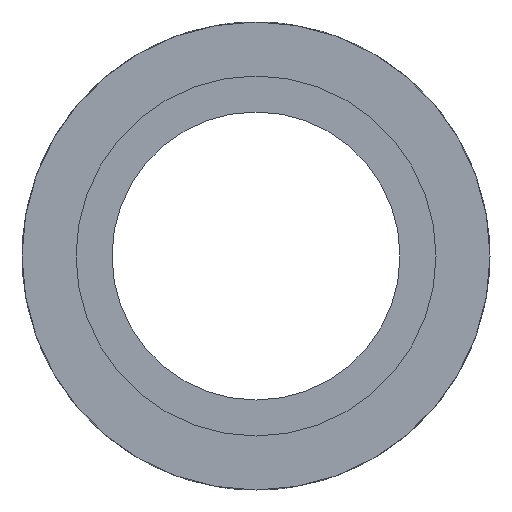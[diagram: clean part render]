
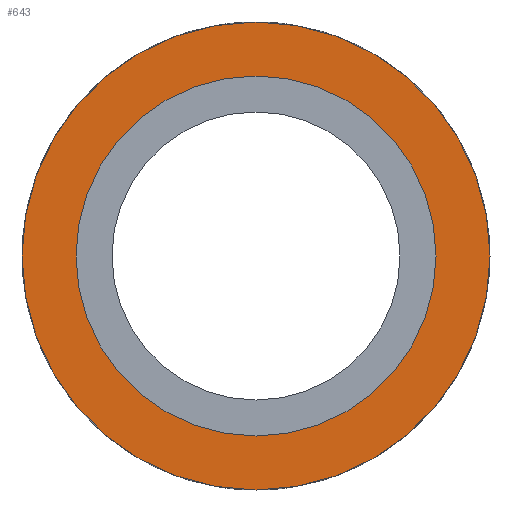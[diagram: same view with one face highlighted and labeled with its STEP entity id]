
A CAD part, front view. The second image highlights one B-rep face of the part: STEP entity #643.
In plain terms, the highlighted planar face has unit normal (0, -1, 0).
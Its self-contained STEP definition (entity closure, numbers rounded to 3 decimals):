
#5 = ORIENTED_EDGE ( 'NONE', *, *, #667, .F. ) ;
#7 = FACE_BOUND ( 'NONE', #869, .T. ) ;
#55 = EDGE_LOOP ( 'NONE', ( #5, #847 ) ) ;
#58 = CARTESIAN_POINT ( 'NONE',  ( 0., 0., -10. ) ) ;
#84 = CARTESIAN_POINT ( 'NONE',  ( 0., 0., 0. ) ) ;
#127 = CIRCLE ( 'NONE', #694, 13. ) ;
#131 = CIRCLE ( 'NONE', #767, 10. ) ;
#132 = CARTESIAN_POINT ( 'NONE',  ( 0., 0., 0. ) ) ;
#156 = AXIS2_PLACEMENT_3D ( 'NONE', #361, #809, #429 ) ;
#161 = DIRECTION ( 'NONE',  ( 0., 0., 1. ) ) ;
#213 = DIRECTION ( 'NONE',  ( 0., 0., 1. ) ) ;
#217 = ORIENTED_EDGE ( 'NONE', *, *, #628, .F. ) ;
#221 = EDGE_CURVE ( 'NONE', #717, #620, #131, .T. ) ;
#283 = CARTESIAN_POINT ( 'NONE',  ( 0., 0., -13. ) ) ;
#297 = CARTESIAN_POINT ( 'NONE',  ( 0., 0., 0. ) ) ;
#361 = CARTESIAN_POINT ( 'NONE',  ( 0., 0., 0. ) ) ;
#367 = DIRECTION ( 'NONE',  ( 0., 0., 1. ) ) ;
#368 = CIRCLE ( 'NONE', #793, 13. ) ;
#410 = AXIS2_PLACEMENT_3D ( 'NONE', #550, #883, #488 ) ;
#429 = DIRECTION ( 'NONE',  ( 0., 0., 1. ) ) ;
#444 = ORIENTED_EDGE ( 'NONE', *, *, #221, .F. ) ;
#445 = CARTESIAN_POINT ( 'NONE',  ( 0., 0., 13. ) ) ;
#488 = DIRECTION ( 'NONE',  ( 0., 0., 1. ) ) ;
#503 = FACE_OUTER_BOUND ( 'NONE', #55, .T. ) ;
#550 = CARTESIAN_POINT ( 'NONE',  ( 0., 0., 0. ) ) ;
#578 = DIRECTION ( 'NONE',  ( 0., -1., 0. ) ) ;
#599 = VERTEX_POINT ( 'NONE', #283 ) ;
#618 = DIRECTION ( 'NONE',  ( 0., 1., 0. ) ) ;
#620 = VERTEX_POINT ( 'NONE', #58 ) ;
#628 = EDGE_CURVE ( 'NONE', #620, #717, #827, .T. ) ;
#643 = ADVANCED_FACE ( 'NONE', ( #503, #7 ), #738, .F. ) ;
#667 = EDGE_CURVE ( 'NONE', #599, #792, #368, .T. ) ;
#682 = CARTESIAN_POINT ( 'NONE',  ( 0., 0., 10. ) ) ;
#694 = AXIS2_PLACEMENT_3D ( 'NONE', #132, #618, #213 ) ;
#717 = VERTEX_POINT ( 'NONE', #682 ) ;
#738 = PLANE ( 'NONE',  #410 ) ;
#745 = DIRECTION ( 'NONE',  ( 0., 1., 0. ) ) ;
#767 = AXIS2_PLACEMENT_3D ( 'NONE', #84, #578, #161 ) ;
#792 = VERTEX_POINT ( 'NONE', #445 ) ;
#793 = AXIS2_PLACEMENT_3D ( 'NONE', #297, #745, #367 ) ;
#801 = EDGE_CURVE ( 'NONE', #792, #599, #127, .T. ) ;
#809 = DIRECTION ( 'NONE',  ( 0., -1., 0. ) ) ;
#827 = CIRCLE ( 'NONE', #156, 10. ) ;
#847 = ORIENTED_EDGE ( 'NONE', *, *, #801, .F. ) ;
#869 = EDGE_LOOP ( 'NONE', ( #444, #217 ) ) ;
#883 = DIRECTION ( 'NONE',  ( 0., 1., 0. ) ) ;
